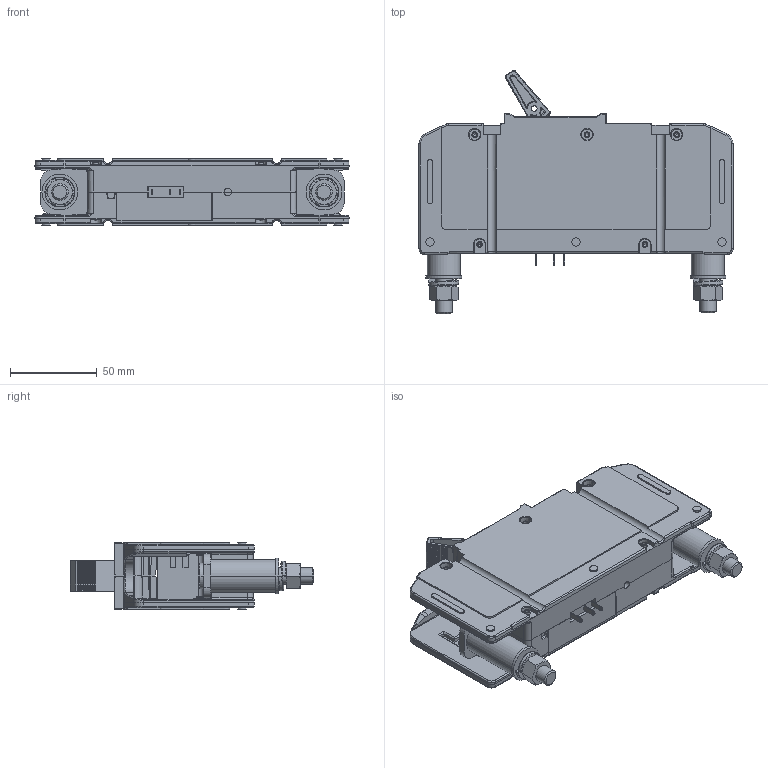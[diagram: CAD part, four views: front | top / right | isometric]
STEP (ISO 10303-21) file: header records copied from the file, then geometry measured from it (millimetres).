
FILE_DESCRIPTION((''),'2;1');
FILE_NAME('FA1-B2-12-820-12A-BG','2012-08-13T',('danboyden'),(''),'PRO/ENGINEER BY PARAMETRIC TECHNOLOGY CORPORATION, 2010280','PRO/ENGINEER BY PARAMETRIC TECHNOLOGY CORPORATION, 2010280','');
FILE_SCHEMA(('CONFIG_CONTROL_DESIGN'));
Products named in the file (1): FA1-B2-12-820-12A-BG
Bounding box: 180.97 x 140.45 x 38.1 mm (x, y, z)
Volume: 239939 mm3; surface area: 118405.6 mm2
Topology: 4 solids, 4 shells, 2938 faces, 7529 edges, 4545 vertices
Faces by surface type: plane 1622, cylinder 792, cone 166, bspline 157, sphere 106, torus 95
Entity records: 126651 total; most frequent: CARTESIAN_POINT 58101, ORIENTED_EDGE 15000, DIRECTION 13008, EDGE_CURVE 7500, VECTOR 4876, LINE 4876, VERTEX_POINT 4545, AXIS2_PLACEMENT_3D 4066
